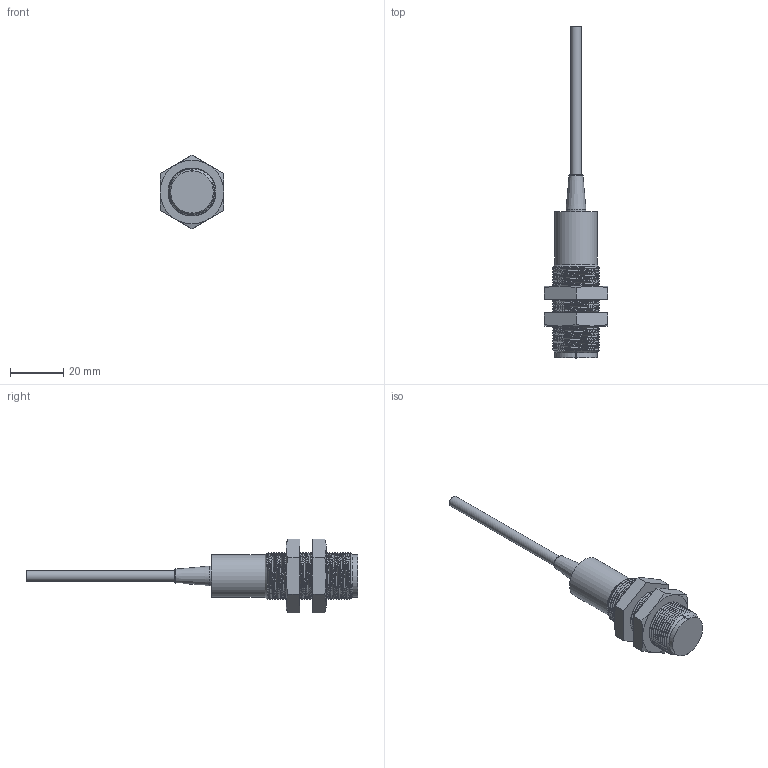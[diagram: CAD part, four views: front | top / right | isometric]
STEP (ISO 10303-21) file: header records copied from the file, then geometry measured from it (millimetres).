
FILE_DESCRIPTION(/* description */ ('Katalogmodell Elobau'),/* implementation_level */ '2;1');
FILE_NAME(/* name */ '120____A.stp',/* time_stamp */ '2014-04-29T08:19:05+02:00',/* author */ ('Elobau GmbH & Co. KG'),/* organization */ ('Elobau GmbH & Co. KG'),/* preprocessor_version */ 'ST-DEVELOPER v15',/* originating_system */ 'SIEMENS PLM Software NX 8.5',/* authorisation */ '');
FILE_SCHEMA (('AUTOMOTIVE_DESIGN { 1 0 10303 214 3 1 1 1 }'));
Length unit declared in the file: millimetre
Products named in the file (1): 120..._A
Bounding box: 24 x 125 x 27.71 mm (x, y, z)
Volume: 16037.6 mm3; surface area: 6363.9 mm2
Topology: 1 solids, 1 shells, 63 faces, 154 edges, 99 vertices
Faces by surface type: plane 29, cone 16, cylinder 11, bspline 6, torus 1
Full cylindrical faces by diameter (mm): 4.1 x1, 7.5 x1, 16 x1
Entity records: 19906 total; most frequent: CARTESIAN_POINT 18589, ORIENTED_EDGE 278, DIRECTION 244, EDGE_CURVE 139, AXIS2_PLACEMENT_3D 97, VERTEX_POINT 92, EDGE_LOOP 75, ADVANCED_FACE 62
